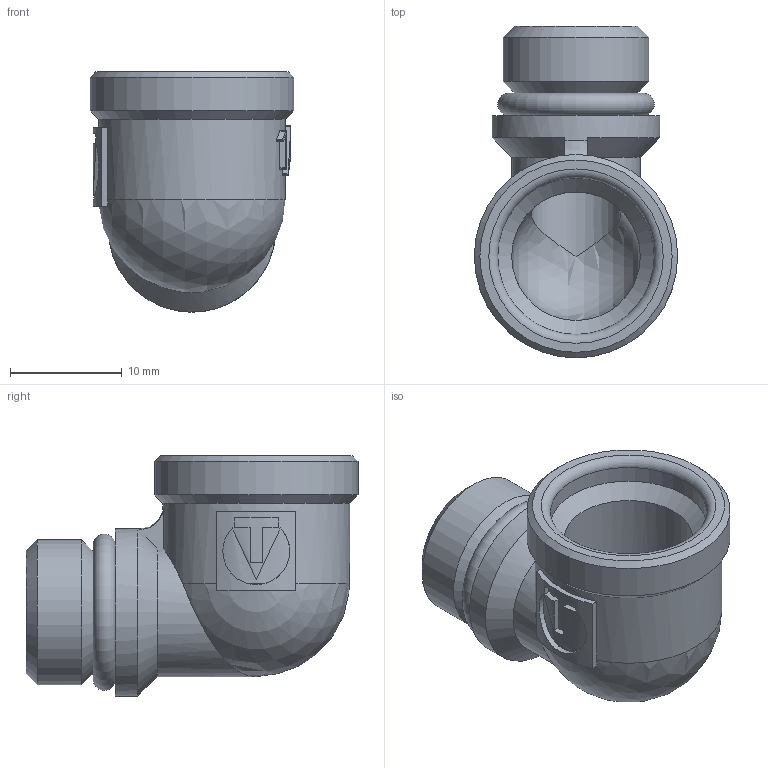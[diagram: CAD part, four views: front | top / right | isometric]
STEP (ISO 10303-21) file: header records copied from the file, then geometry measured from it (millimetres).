
FILE_DESCRIPTION(('STEP AP203'), '1');
FILE_NAME('覆.302635.118.000 捘 - VTr.092.N.0002', '2024-06-20T13:14:41', ('Boss'), (''), 'C3D Converter', 'C3D Toolkit', '');
FILE_SCHEMA(('CONFIG_CONTROL_DESIGN'));
Length unit declared in the file: millimetre
Products named in the file (3): ВР.302635.118.000 СБ; ВР.752218.001
Assembly tree (2 placements, depth 2):
  ВР.302635.118.000 СБ
    ВР.752218.001
    (unnamed)
Bounding box: 18.2 x 29.7 x 21.5 mm (x, y, z)
Volume: 3146.6 mm3; surface area: 3135.8 mm2
Topology: 2 solids, 2 shells, 132 faces, 367 edges, 241 vertices
Faces by surface type: extrusion 52, plane 48, cylinder 18, cone 7, sphere 3, torus 3, bspline 1
Full cylindrical faces by diameter (mm): 8 x1, 10.9 x1, 11.5 x1, 13 x1, 14 x1, 15 x1, 16.7 x1, 18.2 x1
Entity records: 5646 total; most frequent: CARTESIAN_POINT 2528, ORIENTED_EDGE 690, DIRECTION 454, EDGE_CURVE 345, VERTEX_POINT 240, VECTOR 178, B_SPLINE_CURVE_WITH_KNOTS 173, EDGE_LOOP 157
